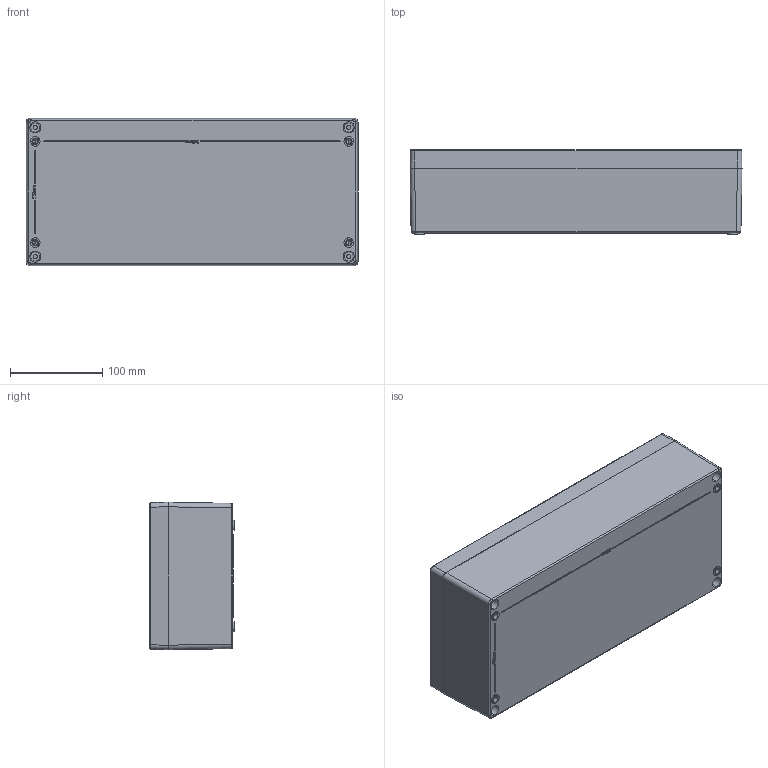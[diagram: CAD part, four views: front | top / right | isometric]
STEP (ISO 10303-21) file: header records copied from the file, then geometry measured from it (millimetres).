
FILE_DESCRIPTION (( 'STEP AP203' ), '1' );
FILE_NAME ('Zag 13.STEP', '2020-11-10T08:26:12', ( '' ), ( '' ), 'SwSTEP 2.0', 'SolidWorks 2020', '' );
FILE_SCHEMA (( 'CONFIG_CONTROL_DESIGN' ));
Length unit declared in the file: millimetre
Products named in the file (4): Zag 13 Lid; Zag 13; Zag 13 Body; pan head cross recess screw_bsi_ISO 7045 - M5 x 25 - Z --- 25N
Assembly tree (6 placements, depth 2):
  Zag 13
    Zag 13 Body
    Zag 13 Lid
    pan head cross recess screw_bsi_ISO 7045 - M5 x 25 - Z --- 25N  x4
Bounding box: 360 x 91.3 x 160 mm (x, y, z)
Volume: 1017677 mm3; surface area: 427909 mm2
Topology: 6 solids, 6 shells, 701 faces, 1829 edges, 1166 vertices
Faces by surface type: plane 290, bspline 161, cylinder 151, cone 71, torus 18, sphere 10
Entity records: 25886 total; most frequent: CARTESIAN_POINT 11711, ORIENTED_EDGE 3102, DIRECTION 2387, EDGE_CURVE 1551, VERTEX_POINT 1013, LINE 853, VECTOR 853, AXIS2_PLACEMENT_3D 767
